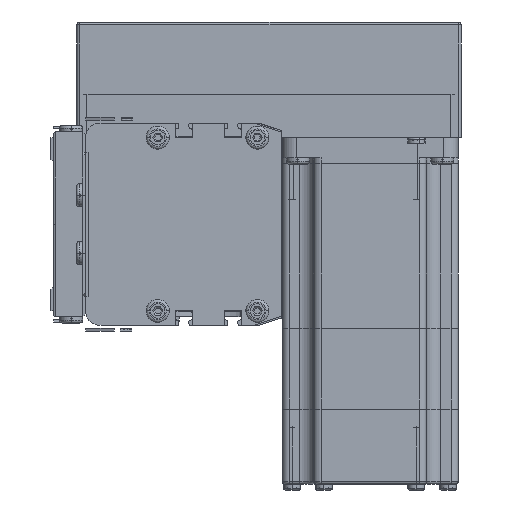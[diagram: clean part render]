
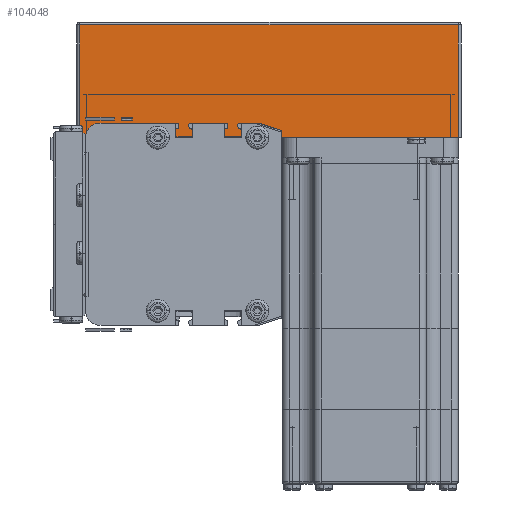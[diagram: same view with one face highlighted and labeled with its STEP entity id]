
A CAD part, left-side view. The second image highlights one B-rep face of the part: STEP entity #104048.
In plain terms, the highlighted planar face has unit normal (-1, 0, 0) as drawn and (0, 1, 0) by its records, which use the part's own axes.
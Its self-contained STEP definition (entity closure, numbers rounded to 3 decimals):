
#94744 = CARTESIAN_POINT ( 'NONE',  ( 132., 62., 0. ) ) ;
#94768 = DIRECTION ( 'NONE',  ( -1., 0., 0. ) ) ;
#94769 = VECTOR ( 'NONE', #94768, 1000. ) ;
#94770 = CARTESIAN_POINT ( 'NONE',  ( 0., 62., 0. ) ) ;
#94772 = LINE ( 'NONE', #94770, #94769 ) ;
#95199 = CARTESIAN_POINT ( 'NONE',  ( 1., 62., 0. ) ) ;
#95450 = CARTESIAN_POINT ( 'NONE',  ( 1., 62., 39. ) ) ;
#95592 = DIRECTION ( 'NONE',  ( 0., 0., -1. ) ) ;
#95593 = DIRECTION ( 'NONE',  ( 0., -1., 0. ) ) ;
#95598 = CARTESIAN_POINT ( 'NONE',  ( 0., 62., 40. ) ) ;
#95599 = FACE_OUTER_BOUND ( 'NONE', #104014, .T. ) ;
#95625 = PLANE ( 'NONE',  #95645 ) ;
#95645 = AXIS2_PLACEMENT_3D ( 'NONE', #95598, #95593, #95592 ) ;
#95646 = CARTESIAN_POINT ( 'NONE',  ( 132., 62., 39. ) ) ;
#95727 = LINE ( 'NONE', #95801, #95800 ) ;
#95728 = DIRECTION ( 'NONE',  ( 0., 0., -1. ) ) ;
#95729 = VECTOR ( 'NONE', #95728, 1000. ) ;
#95730 = CARTESIAN_POINT ( 'NONE',  ( 132., 62., 40. ) ) ;
#95734 = LINE ( 'NONE', #95730, #95729 ) ;
#95793 = DIRECTION ( 'NONE',  ( 0., 0., 1. ) ) ;
#95794 = VECTOR ( 'NONE', #95793, 1000. ) ;
#95795 = CARTESIAN_POINT ( 'NONE',  ( 1., 62., 40. ) ) ;
#95796 = LINE ( 'NONE', #95795, #95794 ) ;
#95799 = DIRECTION ( 'NONE',  ( 1., 0., 0. ) ) ;
#95800 = VECTOR ( 'NONE', #95799, 1000. ) ;
#95801 = CARTESIAN_POINT ( 'NONE',  ( 0., 62., 39. ) ) ;
#103866 = EDGE_CURVE ( 'NONE', #103892, #103933, #94772, .T. ) ;
#103892 = VERTEX_POINT ( 'NONE', #94744 ) ;
#103933 = VERTEX_POINT ( 'NONE', #95199 ) ;
#103960 = VERTEX_POINT ( 'NONE', #95450 ) ;
#104014 = EDGE_LOOP ( 'NONE', ( #104054, #104064, #104092, #104088 ) ) ;
#104032 = VERTEX_POINT ( 'NONE', #95646 ) ;
#104048 = ADVANCED_FACE ( 'NONE', ( #95599 ), #95625, .F. ) ;
#104054 = ORIENTED_EDGE ( 'NONE', *, *, #104057, .T. ) ;
#104055 = EDGE_CURVE ( 'NONE', #104032, #103892, #95734, .T. ) ;
#104057 = EDGE_CURVE ( 'NONE', #103960, #104032, #95727, .T. ) ;
#104058 = EDGE_CURVE ( 'NONE', #103933, #103960, #95796, .T. ) ;
#104064 = ORIENTED_EDGE ( 'NONE', *, *, #104055, .T. ) ;
#104088 = ORIENTED_EDGE ( 'NONE', *, *, #104058, .T. ) ;
#104092 = ORIENTED_EDGE ( 'NONE', *, *, #103866, .T. ) ;
